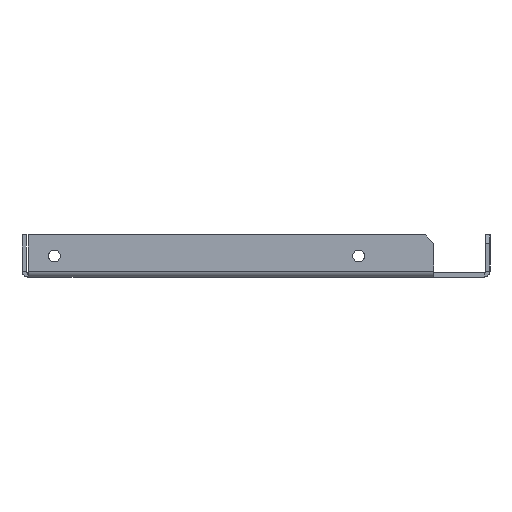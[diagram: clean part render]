
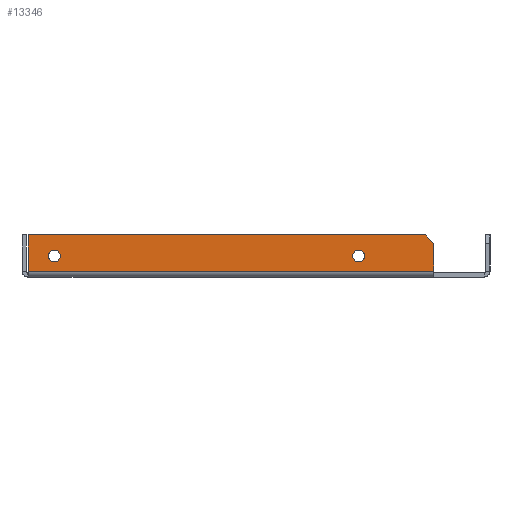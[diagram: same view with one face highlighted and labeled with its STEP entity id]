
A CAD part, left-side view. The second image highlights one B-rep face of the part: STEP entity #13346.
In plain terms, the highlighted planar face has unit normal (-1, 0, 0).
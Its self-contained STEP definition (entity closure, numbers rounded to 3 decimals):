
#5606=CARTESIAN_POINT(' ',(-234.5,-63.25,10.5));
#5607=VERTEX_POINT(' ',#5606);
#5621=CARTESIAN_POINT(' ',(-234.5,-63.25,10.5));
#5626=DIRECTION(' ',(0.,0.,-1.));
#5631=VECTOR(' ',#5626,1.);
#5636=LINE('',#5621,#5631);
#5641=CARTESIAN_POINT(' ',(-234.5,-63.25,0.6));
#5642=VERTEX_POINT(' ',#5641);
#5646=EDGE_CURVE(' ',#5607,#5642,#5636,.T.);
#9526=CARTESIAN_POINT(' ',(-234.5,-63.25,0.6));
#9531=DIRECTION(' ',(0.,1.,0.));
#9536=VECTOR(' ',#9531,1.);
#9541=LINE('',#9526,#9536);
#9546=CARTESIAN_POINT(' ',(-234.5,81.043,0.6));
#9547=VERTEX_POINT(' ',#9546);
#9551=EDGE_CURVE(' ',#5642,#9547,#9541,.T.);
#12961=CARTESIAN_POINT(' ',(-234.5,-63.25,10.5));
#12966=DIRECTION(' ',(0.,0.707,0.707));
#12971=VECTOR(' ',#12966,1.);
#12976=LINE('',#12961,#12971);
#12981=CARTESIAN_POINT(' ',(-234.5,-60.25,13.5));
#12982=VERTEX_POINT(' ',#12981);
#12986=EDGE_CURVE(' ',#5607,#12982,#12976,.T.);
#13051=DIRECTION(' ',(-1.,-0.,0.));
#13056=CARTESIAN_POINT(' ',(-234.5,-63.25,13.5));
#13061=DIRECTION(' ',(-0.,1.,0.));
#13066=AXIS2_PLACEMENT_3D(' ',#13056,#13051,#13061);
#13071=PLANE('NONE',#13066);
#13076=ORIENTED_EDGE(' ',*,*,#5646,.F.);
#13081=ORIENTED_EDGE(' ',*,*,#12986,.T.);
#13086=CARTESIAN_POINT(' ',(-234.5,-60.25,13.5));
#13091=DIRECTION(' ',(0.,1.,0.));
#13096=VECTOR(' ',#13091,1.);
#13101=LINE('',#13086,#13096);
#13106=CARTESIAN_POINT(' ',(-234.5,81.043,13.5));
#13107=VERTEX_POINT(' ',#13106);
#13111=EDGE_CURVE(' ',#12982,#13107,#13101,.T.);
#13116=ORIENTED_EDGE(' ',*,*,#13111,.T.);
#13121=CARTESIAN_POINT(' ',(-234.5,81.043,0.6));
#13126=DIRECTION(' ',(0.,0.,1.));
#13131=VECTOR(' ',#13126,1.);
#13136=LINE('',#13121,#13131);
#13141=EDGE_CURVE(' ',#9547,#13107,#13136,.T.);
#13146=ORIENTED_EDGE(' ',*,*,#13141,.F.);
#13151=ORIENTED_EDGE(' ',*,*,#9551,.F.);
#13156=EDGE_LOOP(' ',(#13076,#13081,#13116,#13146,#13151));
#13161=FACE_OUTER_BOUND(' ',#13156,.T.);
#13166=CARTESIAN_POINT(' ',(-234.5,-36.5,6.));
#13171=DIRECTION(' ',(-1.,-0.,0.));
#13176=DIRECTION(' ',(0.,0.,1.));
#13181=AXIS2_PLACEMENT_3D(' ',#13166,#13171,#13176);
#13186=CIRCLE('',#13181,2.1);
#13191=CARTESIAN_POINT(' ',(-234.5,-36.5,8.1));
#13192=VERTEX_POINT(' ',#13191);
#13196=CARTESIAN_POINT(' ',(-234.5,-36.5,3.9));
#13197=VERTEX_POINT(' ',#13196);
#13201=EDGE_CURVE(' ',#13192,#13197,#13186,.T.);
#13206=ORIENTED_EDGE(' ',*,*,#13201,.F.);
#13211=CARTESIAN_POINT(' ',(-234.5,-36.5,6.));
#13216=DIRECTION(' ',(-1.,0.,0.));
#13221=DIRECTION(' ',(0.,0.,-1.));
#13226=AXIS2_PLACEMENT_3D(' ',#13211,#13216,#13221);
#13231=CIRCLE('',#13226,2.1);
#13236=EDGE_CURVE(' ',#13197,#13192,#13231,.T.);
#13241=ORIENTED_EDGE(' ',*,*,#13236,.F.);
#13246=EDGE_LOOP(' ',(#13206,#13241));
#13251=FACE_BOUND(' ',#13246,.T.);
#13256=CARTESIAN_POINT(' ',(-234.5,71.75,6.));
#13261=DIRECTION(' ',(-1.,-0.,0.));
#13266=DIRECTION(' ',(0.,0.,1.));
#13271=AXIS2_PLACEMENT_3D(' ',#13256,#13261,#13266);
#13276=CIRCLE('',#13271,2.1);
#13281=CARTESIAN_POINT(' ',(-234.5,71.75,8.1));
#13282=VERTEX_POINT(' ',#13281);
#13286=CARTESIAN_POINT(' ',(-234.5,71.75,3.9));
#13287=VERTEX_POINT(' ',#13286);
#13291=EDGE_CURVE(' ',#13282,#13287,#13276,.T.);
#13296=ORIENTED_EDGE(' ',*,*,#13291,.F.);
#13301=CARTESIAN_POINT(' ',(-234.5,71.75,6.));
#13306=DIRECTION(' ',(-1.,0.,0.));
#13311=DIRECTION(' ',(0.,0.,-1.));
#13316=AXIS2_PLACEMENT_3D(' ',#13301,#13306,#13311);
#13321=CIRCLE('',#13316,2.1);
#13326=EDGE_CURVE(' ',#13287,#13282,#13321,.T.);
#13331=ORIENTED_EDGE(' ',*,*,#13326,.F.);
#13336=EDGE_LOOP(' ',(#13296,#13331));
#13341=FACE_BOUND(' ',#13336,.T.);
#13346=ADVANCED_FACE('NONE',(#13161,#13251,#13341),#13071,.T.);
